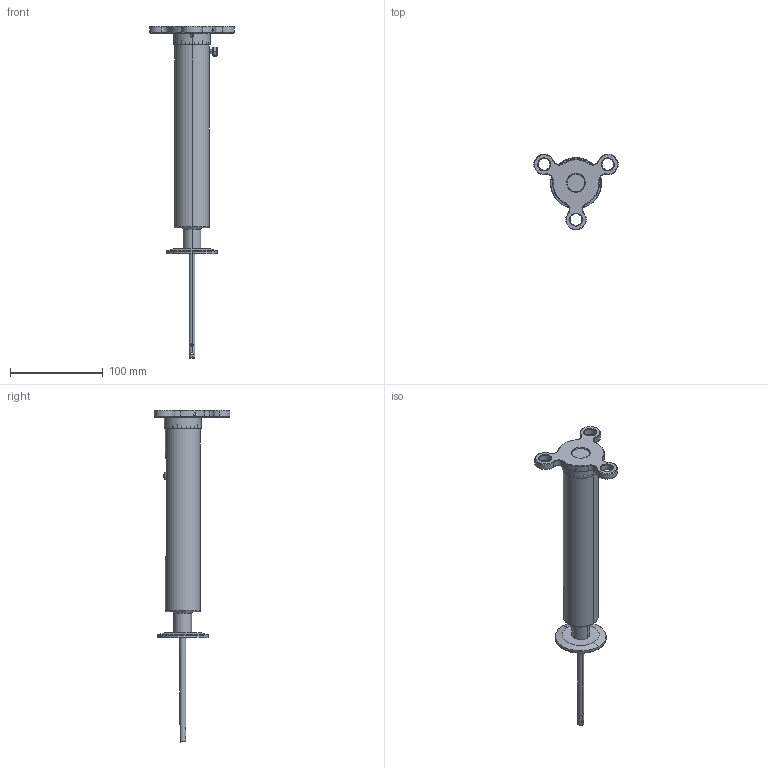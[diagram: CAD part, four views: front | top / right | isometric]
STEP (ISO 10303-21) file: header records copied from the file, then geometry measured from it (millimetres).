
FILE_DESCRIPTION (( 'STEP AP203' ), '1' );
FILE_NAME ('113081-113086.stp', '2019-03-12T20:44:05', ( '' ), ( '' ), 'SwSTEP 2.0', 'SolidWorks 2012', '' );
FILE_SCHEMA (( 'CONFIG_CONTROL_DESIGN' ));
Length unit declared in the file: centimetre
Products named in the file (1): 113081-113086
Bounding box: 90.97 x 81.76 x 358.19 mm (x, y, z)
Volume: 273582.6 mm3; surface area: 43878.6 mm2
Topology: 1 solids, 1 shells, 581 faces, 1573 edges, 1032 vertices
Faces by surface type: plane 203, bspline 160, cylinder 140, cone 78
Entity records: 42951 total; most frequent: CARTESIAN_POINT 29972, ORIENTED_EDGE 3146, DIRECTION 1914, EDGE_CURVE 1573, VERTEX_POINT 1032, B_SPLINE_CURVE_WITH_KNOTS 745, AXIS2_PLACEMENT_3D 672, EDGE_LOOP 637
